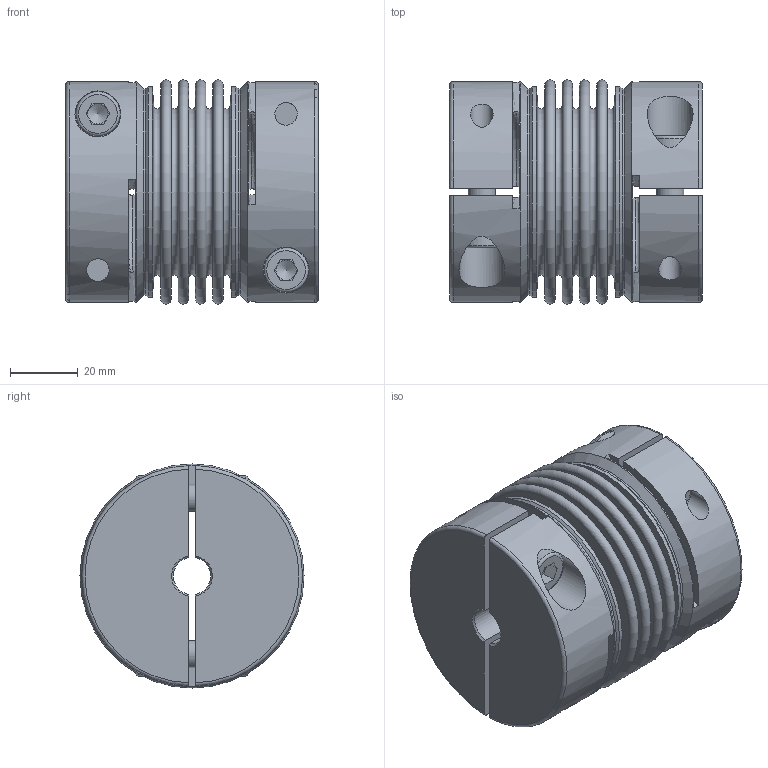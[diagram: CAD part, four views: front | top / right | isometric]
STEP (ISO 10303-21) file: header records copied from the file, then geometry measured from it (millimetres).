
FILE_DESCRIPTION(/* description */ ('Unknown','CAx-IF Rec.Pracs.---Representation and Presentation of Product Manufacturing Information (PMI)---4.0---2014-10-13','CAx-IF Rec.Pracs.---3D Tessellated Geometry---0.4---2014-09-14','2;1'),/* implementation_level */ '2;1');
FILE_NAME(/* name */ 'KG-HS 80-4W',/* time_stamp */ '2022-11-25T11:44:48+01:00',/* author */ ('Unknown'),/* organization */ ('Unknown'),/* preprocessor_version */ 'ST-DEVELOPER v18.102',/* originating_system */ 'Solid Edge',/* authorisation */ 'Unknown');
FILE_SCHEMA (('AP242_MANAGED_MODEL_BASED_3D_ENGINEERING_MIM_LF { 1 0 10303 442 1 1 4 }'));
Length unit declared in the file: millimetre
Products named in the file (1): 04824489
Bounding box: 74.44 x 66 x 66 mm (x, y, z)
Volume: 132649.3 mm3; surface area: 71347.9 mm2
Topology: 1 solids, 1 shells, 198 faces, 459 edges, 295 vertices
Faces by surface type: plane 102, cylinder 42, torus 34, cone 20
Full cylindrical faces by diameter (mm): 6.647 x8, 8 x4, 8.5 x4, 13 x4, 13.5 x4, 61 x2, 62 x2, 65 x2
Entity records: 7124 total; most frequent: CARTESIAN_POINT 1554, DIRECTION 896, ORIENTED_EDGE 728, AXIS2_PLACEMENT_3D 380, EDGE_CURVE 364, FACE_BOUND 312, EDGE_LOOP 308, VERTEX_POINT 272
